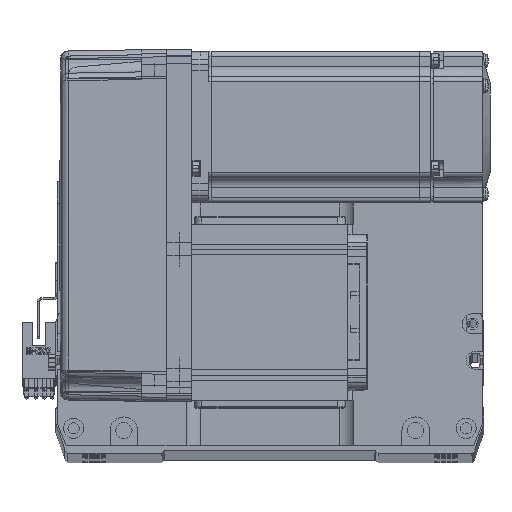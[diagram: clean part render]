
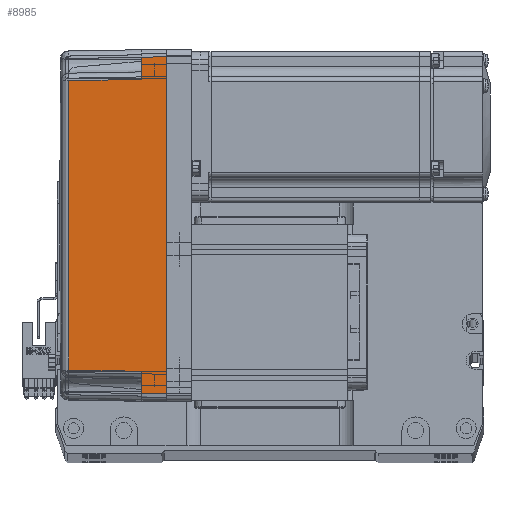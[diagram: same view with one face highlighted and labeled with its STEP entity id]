
A CAD part, top view. The second image highlights one B-rep face of the part: STEP entity #8985.
In plain terms, the highlighted planar face has unit normal (-0.018, 0, 1) as drawn and (0, 1, 0.017) by its records, which use the part's own axes.
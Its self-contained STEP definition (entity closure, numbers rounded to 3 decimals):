
#1053 = CARTESIAN_POINT ( 'NONE',  ( 67., 36., 0. ) ) ;
#1475 = CARTESIAN_POINT ( 'NONE',  ( -58., 35.825, 10. ) ) ;
#2309 = CARTESIAN_POINT ( 'NONE',  ( 57.495, 35.32, 38.985 ) ) ;
#2446 = PLANE ( 'NONE',  #59718 ) ;
#2749 = CARTESIAN_POINT ( 'NONE',  ( -66.826, 35.825, 10. ) ) ;
#2859 = B_SPLINE_CURVE_WITH_KNOTS ( 'NONE', 3,
 ( #39855, #28661, #40068, #8157 ),
 .UNSPECIFIED., .F., .F.,
 ( 4, 4 ),
 ( 0., 1. ),
 .UNSPECIFIED. ) ;
#4024 = VERTEX_POINT ( 'NONE', #1053 ) ;
#5768 = ORIENTED_EDGE ( 'NONE', *, *, #66673, .T. ) ;
#6427 = LINE ( 'NONE', #63460, #51343 ) ;
#6979 = EDGE_CURVE ( 'NONE', #28898, #30336, #12501, .T. ) ;
#8157 = CARTESIAN_POINT ( 'NONE',  ( 57.495, 35.32, 38.985 ) ) ;
#8714 = CARTESIAN_POINT ( 'NONE',  ( -67., 36., 0. ) ) ;
#8985 = ADVANCED_FACE ( 'NONE', ( #23563 ), #2446, .T. ) ;
#9457 = EDGE_CURVE ( 'NONE', #34637, #47689, #51220, .T. ) ;
#9710 = CARTESIAN_POINT ( 'NONE',  ( 57.495, 35.32, 38.985 ) ) ;
#11275 = DIRECTION ( 'NONE',  ( -0.017, -0.017, 1. ) ) ;
#11423 = CARTESIAN_POINT ( 'NONE',  ( -67., 36., 0. ) ) ;
#11908 = VECTOR ( 'NONE', #65234, 1000. ) ;
#12501 = LINE ( 'NONE', #55378, #23162 ) ;
#13359 = DIRECTION ( 'NONE',  ( 0.017, -0.017, 1. ) ) ;
#14279 = ORIENTED_EDGE ( 'NONE', *, *, #36831, .T. ) ;
#15729 = ORIENTED_EDGE ( 'NONE', *, *, #9457, .T. ) ;
#16127 = VECTOR ( 'NONE', #59446, 1000. ) ;
#18859 = EDGE_CURVE ( 'NONE', #47689, #41208, #6427, .T. ) ;
#20722 = DIRECTION ( 'NONE',  ( 1., 0., 0. ) ) ;
#23162 = VECTOR ( 'NONE', #40052, 1000. ) ;
#23528 = DIRECTION ( 'NONE',  ( 0., 1., 0.017 ) ) ;
#23563 = FACE_OUTER_BOUND ( 'NONE', #56131, .T. ) ;
#24962 = ORIENTED_EDGE ( 'NONE', *, *, #36510, .F. ) ;
#27679 = CARTESIAN_POINT ( 'NONE',  ( 67.001, 36.001, -0.052 ) ) ;
#28661 = CARTESIAN_POINT ( 'NONE',  ( -19.165, 35.316, 39.181 ) ) ;
#28861 = VERTEX_POINT ( 'NONE', #65398 ) ;
#28898 = VERTEX_POINT ( 'NONE', #2749 ) ;
#28997 = VECTOR ( 'NONE', #60561, 1000. ) ;
#30336 = VERTEX_POINT ( 'NONE', #1475 ) ;
#32283 = LINE ( 'NONE', #8714, #28997 ) ;
#34247 = CARTESIAN_POINT ( 'NONE',  ( 70., 36., 0. ) ) ;
#34629 = CARTESIAN_POINT ( 'NONE',  ( -58., 35.825, 10. ) ) ;
#34637 = VERTEX_POINT ( 'NONE', #9710 ) ;
#36510 = EDGE_CURVE ( 'NONE', #67508, #4024, #49519, .T. ) ;
#36831 = EDGE_CURVE ( 'NONE', #67508, #28898, #32283, .T. ) ;
#38064 = CARTESIAN_POINT ( 'NONE',  ( 58., 35.825, 10. ) ) ;
#38831 = ORIENTED_EDGE ( 'NONE', *, *, #6979, .T. ) ;
#39777 = VECTOR ( 'NONE', #11275, 1000. ) ;
#39855 = CARTESIAN_POINT ( 'NONE',  ( -57.495, 35.32, 38.985 ) ) ;
#40052 = DIRECTION ( 'NONE',  ( 1., 0., 0. ) ) ;
#40068 = CARTESIAN_POINT ( 'NONE',  ( 19.165, 35.316, 39.181 ) ) ;
#41208 = VERTEX_POINT ( 'NONE', #51197 ) ;
#42213 = LINE ( 'NONE', #27679, #39777 ) ;
#42758 = ORIENTED_EDGE ( 'NONE', *, *, #18859, .T. ) ;
#45084 = CARTESIAN_POINT ( 'NONE',  ( 0., 36., 0. ) ) ;
#47689 = VERTEX_POINT ( 'NONE', #38064 ) ;
#48231 = ORIENTED_EDGE ( 'NONE', *, *, #66656, .T. ) ;
#49519 = LINE ( 'NONE', #45084, #11908 ) ;
#49937 = DIRECTION ( 'NONE',  ( 0., -0.017, 1. ) ) ;
#51197 = CARTESIAN_POINT ( 'NONE',  ( 66.826, 35.825, 10. ) ) ;
#51220 = LINE ( 'NONE', #2309, #16127 ) ;
#51343 = VECTOR ( 'NONE', #20722, 1000. ) ;
#52264 = LINE ( 'NONE', #34629, #57109 ) ;
#55378 = CARTESIAN_POINT ( 'NONE',  ( 70., 35.825, 10. ) ) ;
#56131 = EDGE_LOOP ( 'NONE', ( #14279, #38831, #5768, #48231, #15729, #42758, #67784, #24962 ) ) ;
#57109 = VECTOR ( 'NONE', #13359, 1000. ) ;
#59446 = DIRECTION ( 'NONE',  ( 0.017, 0.017, -1. ) ) ;
#59718 = AXIS2_PLACEMENT_3D ( 'NONE', #34247, #23528, #49937 ) ;
#60561 = DIRECTION ( 'NONE',  ( 0.017, -0.017, 1. ) ) ;
#63460 = CARTESIAN_POINT ( 'NONE',  ( 70., 35.825, 10. ) ) ;
#65234 = DIRECTION ( 'NONE',  ( 1., 0., 0. ) ) ;
#65398 = CARTESIAN_POINT ( 'NONE',  ( -57.495, 35.32, 38.985 ) ) ;
#66656 = EDGE_CURVE ( 'NONE', #28861, #34637, #2859, .T. ) ;
#66673 = EDGE_CURVE ( 'NONE', #30336, #28861, #52264, .T. ) ;
#66974 = EDGE_CURVE ( 'NONE', #4024, #41208, #42213, .T. ) ;
#67508 = VERTEX_POINT ( 'NONE', #11423 ) ;
#67784 = ORIENTED_EDGE ( 'NONE', *, *, #66974, .F. ) ;
